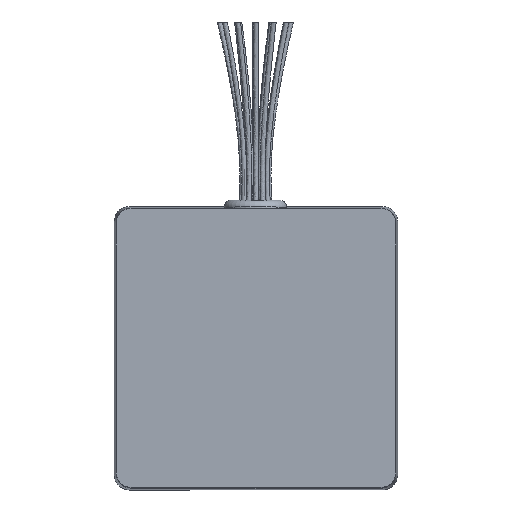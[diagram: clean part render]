
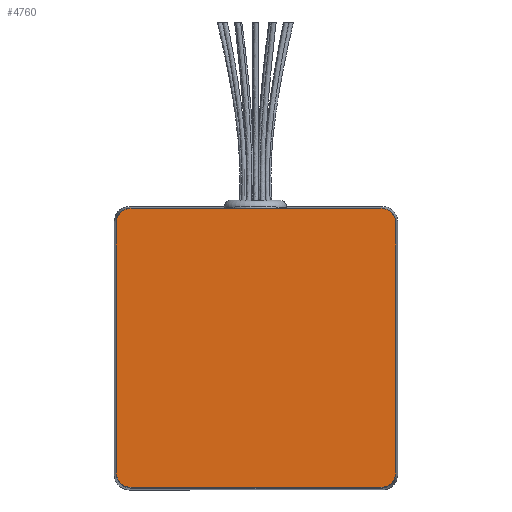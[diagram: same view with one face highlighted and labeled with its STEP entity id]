
A CAD part, top view. The second image highlights one B-rep face of the part: STEP entity #4760.
In plain terms, the highlighted planar face has unit normal (0, 0, 1).
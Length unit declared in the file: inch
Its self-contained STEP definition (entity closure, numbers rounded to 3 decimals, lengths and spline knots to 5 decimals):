
#4133=CARTESIAN_POINT('',(-1.0065,1.125,3.146));
#4134=VERTEX_POINT('',#4133);
#4141=CARTESIAN_POINT('',(1.0065,1.125,3.146));
#4142=VERTEX_POINT('',#4141);
#4143=CARTESIAN_POINT('',(-1.0065,1.125,3.146));
#4144=DIRECTION('',(1.0,0.0,0.0));
#4145=VECTOR('',#4144,2.013);
#4146=LINE('',#4143,#4145);
#4147=EDGE_CURVE('',#4134,#4142,#4146,.T.);
#4485=CARTESIAN_POINT('',(1.125,-1.0065,3.146));
#4486=VERTEX_POINT('',#4485);
#4487=CARTESIAN_POINT('',(1.0065,-1.125,3.146));
#4488=VERTEX_POINT('',#4487);
#4489=CARTESIAN_POINT('',(1.0065,-1.0065,3.146));
#4490=DIRECTION('',(0.0,0.0,-1.));
#4491=DIRECTION('',(0.707,-0.707,0.0));
#4492=AXIS2_PLACEMENT_3D('',#4489,#4490,#4491);
#4493=CIRCLE('',#4492,0.1185);
#4494=EDGE_CURVE('',#4486,#4488,#4493,.T.);
#4585=CARTESIAN_POINT('',(-1.0065,-1.125,3.146));
#4586=VERTEX_POINT('',#4585);
#4587=CARTESIAN_POINT('',(1.0065,-1.125,3.146));
#4588=DIRECTION('',(-1.0,0.0,0.0));
#4589=VECTOR('',#4588,2.013);
#4590=LINE('',#4587,#4589);
#4591=EDGE_CURVE('',#4488,#4586,#4590,.T.);
#4624=CARTESIAN_POINT('',(-1.125,-1.0065,3.146));
#4625=VERTEX_POINT('',#4624);
#4626=CARTESIAN_POINT('',(-1.0065,-1.0065,3.146));
#4627=DIRECTION('',(0.0,0.0,-1.));
#4628=DIRECTION('',(-0.707,-0.707,0.0));
#4629=AXIS2_PLACEMENT_3D('',#4626,#4627,#4628);
#4630=CIRCLE('',#4629,0.1185);
#4631=EDGE_CURVE('',#4586,#4625,#4630,.T.);
#4707=CARTESIAN_POINT('',(-1.125,1.0065,3.146));
#4708=VERTEX_POINT('',#4707);
#4709=CARTESIAN_POINT('',(-1.0065,1.0065,3.146));
#4710=DIRECTION('',(0.0,0.0,-1.));
#4711=DIRECTION('',(-0.707,0.707,0.0));
#4712=AXIS2_PLACEMENT_3D('',#4709,#4710,#4711);
#4713=CIRCLE('',#4712,0.1185);
#4714=EDGE_CURVE('',#4708,#4134,#4713,.T.);
#4727=CARTESIAN_POINT('',(0.0,0.,3.146));
#4728=DIRECTION('',(0.0,0.0,1.0));
#4729=DIRECTION('',(1.0,0.0,0.0));
#4730=AXIS2_PLACEMENT_3D('',#4727,#4728,#4729);
#4731=PLANE('',#4730);
#4732=ORIENTED_EDGE('',*,*,#4494,.F.);
#4733=CARTESIAN_POINT('',(1.125,1.0065,3.146));
#4734=VERTEX_POINT('',#4733);
#4735=CARTESIAN_POINT('',(1.125,1.0065,3.146));
#4736=DIRECTION('',(0.0,-1.0,0.0));
#4737=VECTOR('',#4736,2.013);
#4738=LINE('',#4735,#4737);
#4739=EDGE_CURVE('',#4734,#4486,#4738,.T.);
#4740=ORIENTED_EDGE('',*,*,#4739,.F.);
#4741=CARTESIAN_POINT('',(1.0065,1.0065,3.146));
#4742=DIRECTION('',(0.0,0.0,-1.));
#4743=DIRECTION('',(0.707,0.707,0.0));
#4744=AXIS2_PLACEMENT_3D('',#4741,#4742,#4743);
#4745=CIRCLE('',#4744,0.1185);
#4746=EDGE_CURVE('',#4142,#4734,#4745,.T.);
#4747=ORIENTED_EDGE('',*,*,#4746,.F.);
#4748=ORIENTED_EDGE('',*,*,#4147,.F.);
#4749=ORIENTED_EDGE('',*,*,#4714,.F.);
#4750=CARTESIAN_POINT('',(-1.125,-1.0065,3.146));
#4751=DIRECTION('',(0.0,1.0,0.0));
#4752=VECTOR('',#4751,2.013);
#4753=LINE('',#4750,#4752);
#4754=EDGE_CURVE('',#4625,#4708,#4753,.T.);
#4755=ORIENTED_EDGE('',*,*,#4754,.F.);
#4756=ORIENTED_EDGE('',*,*,#4631,.F.);
#4757=ORIENTED_EDGE('',*,*,#4591,.F.);
#4758=EDGE_LOOP('',(#4732,#4740,#4747,#4748,#4749,#4755,#4756,#4757));
#4759=FACE_OUTER_BOUND('',#4758,.T.);
#4760=ADVANCED_FACE('',(#4759),#4731,.T.);
